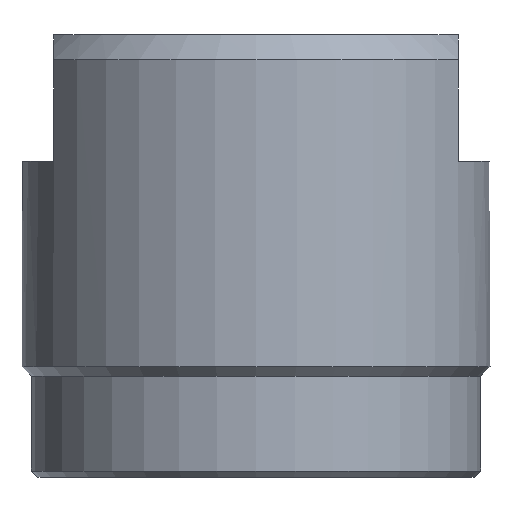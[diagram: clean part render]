
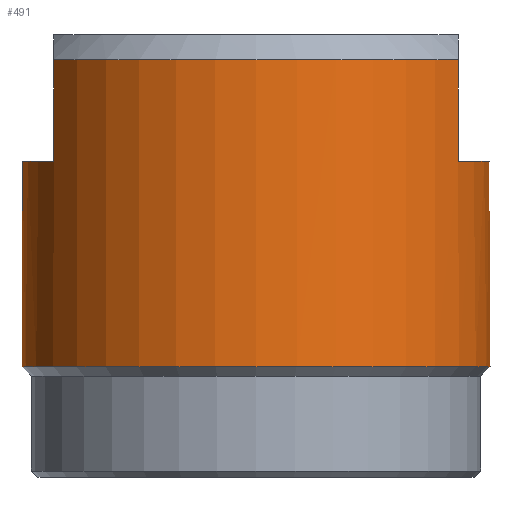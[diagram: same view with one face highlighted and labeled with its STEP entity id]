
A CAD part, left-side view. The second image highlights one B-rep face of the part: STEP entity #491.
In plain terms, the highlighted cylindrical face has radius 9.25 mm (diameter 18.5 mm), a full revolution.
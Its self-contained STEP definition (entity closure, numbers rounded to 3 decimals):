
#27 = EDGE_CURVE ( 'NONE', #920, #1860, #106, .T. ) ;
#43 = ORIENTED_EDGE ( 'NONE', *, *, #522, .F. ) ;
#61 = EDGE_CURVE ( 'NONE', #535, #1785, #1406, .T. ) ;
#71 = DIRECTION ( 'NONE',  ( -1., 0., 0. ) ) ;
#78 = CARTESIAN_POINT ( 'NONE',  ( 0., 0., 0. ) ) ;
#106 = LINE ( 'NONE', #693, #1669 ) ;
#116 = VECTOR ( 'NONE', #1555, 1000. ) ;
#172 = CARTESIAN_POINT ( 'NONE',  ( 4.644, -8., 0. ) ) ;
#180 = CARTESIAN_POINT ( 'NONE',  ( -4.644, 8., 16.5 ) ) ;
#232 = CARTESIAN_POINT ( 'NONE',  ( 4.644, 8., 12.5 ) ) ;
#276 = DIRECTION ( 'NONE',  ( 0., 0., -1. ) ) ;
#317 = CARTESIAN_POINT ( 'NONE',  ( 4.644, -8., 12.5 ) ) ;
#325 = DIRECTION ( 'NONE',  ( -1., 0., 0. ) ) ;
#354 = CARTESIAN_POINT ( 'NONE',  ( -4.644, -8., 16.5 ) ) ;
#478 = AXIS2_PLACEMENT_3D ( 'NONE', #78, #1537, #1088 ) ;
#491 = ADVANCED_FACE ( 'NONE', ( #1078, #1353 ), #1498, .T. ) ;
#505 = CIRCLE ( 'NONE', #918, 9.25 ) ;
#522 = EDGE_CURVE ( 'NONE', #679, #1066, #824, .T. ) ;
#535 = VERTEX_POINT ( 'NONE', #232 ) ;
#549 = CARTESIAN_POINT ( 'NONE',  ( 4.644, 8., 16.5 ) ) ;
#554 = CIRCLE ( 'NONE', #798, 9.25 ) ;
#585 = VECTOR ( 'NONE', #1786, 1000. ) ;
#610 = CARTESIAN_POINT ( 'NONE',  ( 0., 0., 16.5 ) ) ;
#643 = AXIS2_PLACEMENT_3D ( 'NONE', #645, #1520, #71 ) ;
#645 = CARTESIAN_POINT ( 'NONE',  ( 0., 0., 12.5 ) ) ;
#675 = CARTESIAN_POINT ( 'NONE',  ( -4.644, 8., 12.5 ) ) ;
#679 = VERTEX_POINT ( 'NONE', #1436 ) ;
#690 = ORIENTED_EDGE ( 'NONE', *, *, #1112, .T. ) ;
#693 = CARTESIAN_POINT ( 'NONE',  ( -4.644, 8., 0. ) ) ;
#743 = CIRCLE ( 'NONE', #643, 9.25 ) ;
#774 = ORIENTED_EDGE ( 'NONE', *, *, #1582, .F. ) ;
#783 = ORIENTED_EDGE ( 'NONE', *, *, #1420, .T. ) ;
#798 = AXIS2_PLACEMENT_3D ( 'NONE', #1004, #828, #1265 ) ;
#802 = EDGE_LOOP ( 'NONE', ( #1768 ) ) ;
#824 = CIRCLE ( 'NONE', #1677, 9.25 ) ;
#828 = DIRECTION ( 'NONE',  ( 0., 0., -1. ) ) ;
#840 = VERTEX_POINT ( 'NONE', #1571 ) ;
#842 = VERTEX_POINT ( 'NONE', #354 ) ;
#849 = CARTESIAN_POINT ( 'NONE',  ( -4.644, -8., 0. ) ) ;
#893 = VECTOR ( 'NONE', #1540, 1000. ) ;
#918 = AXIS2_PLACEMENT_3D ( 'NONE', #610, #1055, #325 ) ;
#920 = VERTEX_POINT ( 'NONE', #180 ) ;
#1004 = CARTESIAN_POINT ( 'NONE',  ( 0., 0., 4.375 ) ) ;
#1017 = AXIS2_PLACEMENT_3D ( 'NONE', #1830, #276, #1429 ) ;
#1055 = DIRECTION ( 'NONE',  ( 0., 0., -1. ) ) ;
#1066 = VERTEX_POINT ( 'NONE', #317 ) ;
#1078 = FACE_OUTER_BOUND ( 'NONE', #802, .T. ) ;
#1088 = DIRECTION ( 'NONE',  ( -1., 0., 0. ) ) ;
#1112 = EDGE_CURVE ( 'NONE', #1813, #1066, #1487, .T. ) ;
#1120 = LINE ( 'NONE', #849, #893 ) ;
#1134 = DIRECTION ( 'NONE',  ( 0., 0., -1. ) ) ;
#1212 = ORIENTED_EDGE ( 'NONE', *, *, #1664, .T. ) ;
#1250 = ORIENTED_EDGE ( 'NONE', *, *, #61, .T. ) ;
#1265 = DIRECTION ( 'NONE',  ( -1., 0., 0. ) ) ;
#1353 = FACE_OUTER_BOUND ( 'NONE', #1360, .T. ) ;
#1360 = EDGE_LOOP ( 'NONE', ( #43, #1212, #1793, #1495, #774, #1250, #783, #690 ) ) ;
#1388 = CARTESIAN_POINT ( 'NONE',  ( 0., 0., 12.5 ) ) ;
#1406 = LINE ( 'NONE', #1514, #116 ) ;
#1410 = CARTESIAN_POINT ( 'NONE',  ( 4.644, -8., 16.5 ) ) ;
#1420 = EDGE_CURVE ( 'NONE', #1785, #1813, #505, .T. ) ;
#1429 = DIRECTION ( 'NONE',  ( -1., 0., 0. ) ) ;
#1436 = CARTESIAN_POINT ( 'NONE',  ( -4.644, -8., 12.5 ) ) ;
#1487 = LINE ( 'NONE', #172, #585 ) ;
#1495 = ORIENTED_EDGE ( 'NONE', *, *, #27, .T. ) ;
#1498 = CYLINDRICAL_SURFACE ( 'NONE', #478, 9.25 ) ;
#1514 = CARTESIAN_POINT ( 'NONE',  ( 4.644, 8., 0. ) ) ;
#1520 = DIRECTION ( 'NONE',  ( 0., 0., 1. ) ) ;
#1537 = DIRECTION ( 'NONE',  ( 0., 0., -1. ) ) ;
#1540 = DIRECTION ( 'NONE',  ( 0., 0., 1. ) ) ;
#1555 = DIRECTION ( 'NONE',  ( 0., 0., 1. ) ) ;
#1557 = CIRCLE ( 'NONE', #1017, 9.25 ) ;
#1571 = CARTESIAN_POINT ( 'NONE',  ( -9.25, 0., 4.375 ) ) ;
#1582 = EDGE_CURVE ( 'NONE', #535, #1860, #743, .T. ) ;
#1655 = DIRECTION ( 'NONE',  ( 0., 0., 1. ) ) ;
#1664 = EDGE_CURVE ( 'NONE', #679, #842, #1120, .T. ) ;
#1669 = VECTOR ( 'NONE', #1134, 1000. ) ;
#1677 = AXIS2_PLACEMENT_3D ( 'NONE', #1388, #1655, #1796 ) ;
#1768 = ORIENTED_EDGE ( 'NONE', *, *, #1804, .F. ) ;
#1785 = VERTEX_POINT ( 'NONE', #549 ) ;
#1786 = DIRECTION ( 'NONE',  ( 0., 0., -1. ) ) ;
#1793 = ORIENTED_EDGE ( 'NONE', *, *, #1865, .T. ) ;
#1796 = DIRECTION ( 'NONE',  ( -1., 0., 0. ) ) ;
#1804 = EDGE_CURVE ( 'NONE', #840, #840, #554, .T. ) ;
#1813 = VERTEX_POINT ( 'NONE', #1410 ) ;
#1830 = CARTESIAN_POINT ( 'NONE',  ( 0., 0., 16.5 ) ) ;
#1860 = VERTEX_POINT ( 'NONE', #675 ) ;
#1865 = EDGE_CURVE ( 'NONE', #842, #920, #1557, .T. ) ;
